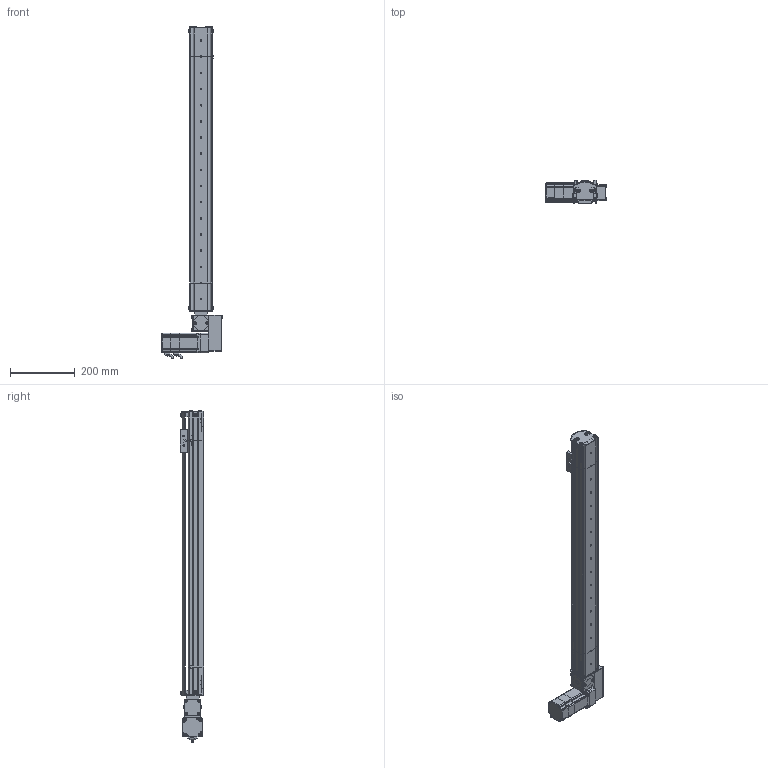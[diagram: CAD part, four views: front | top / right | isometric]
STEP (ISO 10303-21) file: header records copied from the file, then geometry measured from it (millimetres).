
FILE_DESCRIPTION (( 'STEP AP214' ), '1' );
FILE_NAME ('S07 TBN LH S700.STEP', '2010-06-29T11:38:00', ( 'Conseil Régional Haute-Normandie' ), ( 'Conseil Régional Haute-Normandie' ), 'SwSTEP 2.0', 'SolidWorks 2010', '' );
FILE_SCHEMA (( 'AUTOMOTIVE_DESIGN' ));
Length unit declared in the file: millimetre
Products named in the file (41): vis M5 L5_Default; S07 TB tail (78)_Default; Vis M5 L16-2_Default; GMB 60 90 310_Default; Pièce5^S07 LH(146); Axe 60BLDC_Default; P4_Default; VisM3_Default; Conecteur2 60BLDC_Default; Conecteur 60BLDC_Default; renvoi LH_Default; Plaque racord_Default; Couroie t皻e_Default; P3 90A_Default; P2 90A_Default; P1_Default; Cvis M5 L30_Default; guide; CHariot_Default; T皻e de poulie_Default; Poulie_Default; couvercle tail TB; couroie tail_Default; vis M5 L12_Default; vis M5 L16_Default; Chariot; plaque de bout_Default; corp tail TB_Default; couvercle moteur S07 TB; plaque de bout LH_Default; corp moteur LH-RH(146)_Default; cache t皻e_Default; Poulie head_Default; cache t皻e axe_Default; S07 LH(146)_Default; couvercle S07 course 700 ; Couroie  course 700_Default; Corp S07 course 700_Default; Course C L700_Default; S07 TBN LH S700
Assembly tree (80 placements, depth 4):
  Pièce5^S07 LH(146)
  S07 TBN LH S700
    S07 TB tail (78)_Default
      vis M5 L12_Default  x10
      plaque de bout_Default
      corp tail TB_Default
      couvercle tail TB
      Poulie_Default
        Poulie_Default
        T皻e de poulie_Default
      couroie tail_Default
    S07 LH(146)_Default
      cache t皻e_Default  x2
      Vis M5 L16-2_Default  x8
      vis M5 L5_Default  x6
      vis M5 L12_Default  x6
      Plaque racord_Default
      GMB 60 90 310_Default
        VisM3_Default  x12
        P3 90A_Default
        P4_Default
        Axe 60BLDC_Default
        P1_Default
        Conecteur 60BLDC_Default
        Conecteur2 60BLDC_Default
        P2 90A_Default
      plaque de bout LH_Default
      corp moteur LH-RH(146)_Default
      cache t皻e axe_Default
      Couroie t皻e_Default
      Cvis M5 L30_Default  x2
      Poulie head_Default
      renvoi LH_Default
      couvercle moteur S07 TB
    CHariot_Default
      Chariot
      guide
      vis M5 L16_Default  x2
    Course C L700_Default
      Corp S07 course 700_Default
      couvercle S07 course 700 
      Couroie  course 700_Default
Bounding box: 190.2 x 72.2 x 1027 mm (x, y, z)
Volume: 2179266.6 mm3; surface area: 905471 mm2
Topology: 102 solids, 102 shells, 3920 faces, 9768 edges, 6309 vertices
Faces by surface type: plane 2230, cylinder 760, bspline 677, cone 125, torus 124, sphere 4
Entity records: 167169 total; most frequent: CARTESIAN_POINT 75201, ORIENTED_EDGE 15448, DIRECTION 12281, EDGE_CURVE 7724, VERTEX_POINT 5097, VECTOR 5047, LINE 5047, AXIS2_PLACEMENT_3D 3617
